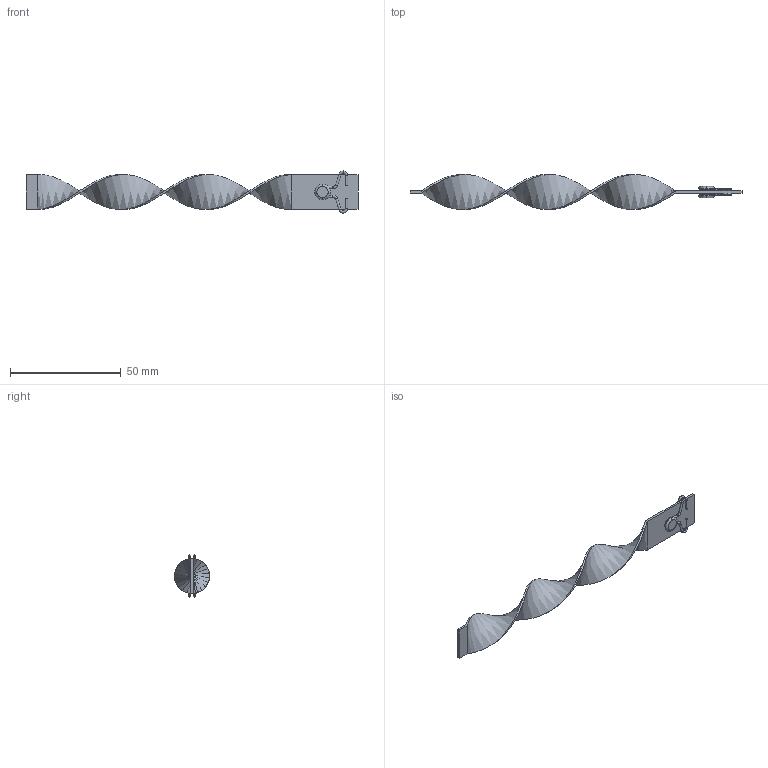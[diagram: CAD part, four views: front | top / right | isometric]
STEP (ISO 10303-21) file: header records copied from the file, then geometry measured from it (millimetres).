
FILE_DESCRIPTION (( 'STEP AP203' ), '1' );
FILE_NAME ('RLAS-16x150.STEP', '2016-02-12T07:07:48', ( 'Balzi' ), ( '' ), 'SwSTEP 2.0', 'SolidWorks 2015', '' );
FILE_SCHEMA (( 'CONFIG_CONTROL_DESIGN' ));
Length unit declared in the file: millimetre
Products named in the file (1): RLAS-16x150
Bounding box: 150 x 15.82 x 18.99 mm (x, y, z)
Volume: 2506 mm3; surface area: 5795.2 mm2
Topology: 5 solids, 5 shells, 92 faces, 178 edges, 96 vertices
Faces by surface type: torus 40, cylinder 30, plane 18, bspline 4
Entity records: 3451 total; most frequent: CARTESIAN_POINT 1463, DIRECTION 468, ORIENTED_EDGE 356, AXIS2_PLACEMENT_3D 209, EDGE_CURVE 178, CIRCLE 120, VERTEX_POINT 96, EDGE_LOOP 94
